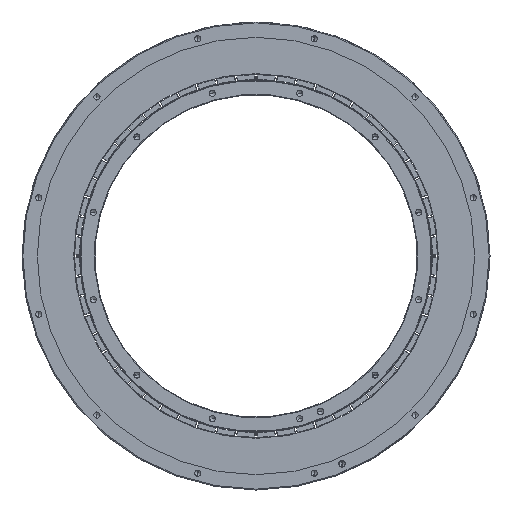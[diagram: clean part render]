
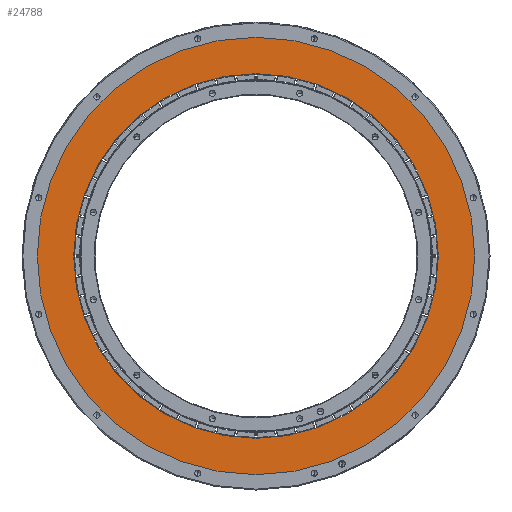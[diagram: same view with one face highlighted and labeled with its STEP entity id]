
A CAD part, front view. The second image highlights one B-rep face of the part: STEP entity #24788.
In plain terms, the highlighted planar face has unit normal (0, -1, 0).
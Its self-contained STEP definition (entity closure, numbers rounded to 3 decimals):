
#2610 = CARTESIAN_POINT ( 'NONE',  ( 0., -44., 179.93 ) ) ;
#3209 = CARTESIAN_POINT ( 'NONE',  ( 0., -44., 0. ) ) ;
#7020 = CARTESIAN_POINT ( 'NONE',  ( 0., -44., 0. ) ) ;
#7289 = DIRECTION ( 'NONE',  ( 0., -1., 0. ) ) ;
#7701 = CARTESIAN_POINT ( 'NONE',  ( 0., -44., -150. ) ) ;
#8012 = EDGE_CURVE ( 'NONE', #10495, #25065, #11505, .T. ) ;
#9382 = CIRCLE ( 'NONE', #26011, 150. ) ;
#9480 = CARTESIAN_POINT ( 'NONE',  ( 0., -44., 0. ) ) ;
#10495 = VERTEX_POINT ( 'NONE', #2610 ) ;
#11301 = CARTESIAN_POINT ( 'NONE',  ( 0., -44., -179.93 ) ) ;
#11505 = CIRCLE ( 'NONE', #13692, 179.93 ) ;
#11855 = DIRECTION ( 'NONE',  ( 0., 0., -1. ) ) ;
#12942 = VERTEX_POINT ( 'NONE', #13282 ) ;
#13035 = ORIENTED_EDGE ( 'NONE', *, *, #8012, .T. ) ;
#13268 = EDGE_CURVE ( 'NONE', #25065, #10495, #17529, .T. ) ;
#13282 = CARTESIAN_POINT ( 'NONE',  ( 0., -44., 150. ) ) ;
#13289 = DIRECTION ( 'NONE',  ( 0., -1., 0. ) ) ;
#13692 = AXIS2_PLACEMENT_3D ( 'NONE', #30352, #7289, #17546 ) ;
#14329 = CIRCLE ( 'NONE', #17567, 150. ) ;
#14558 = EDGE_LOOP ( 'NONE', ( #15127, #13035 ) ) ;
#14864 = ORIENTED_EDGE ( 'NONE', *, *, #25111, .F. ) ;
#15127 = ORIENTED_EDGE ( 'NONE', *, *, #13268, .T. ) ;
#15335 = EDGE_LOOP ( 'NONE', ( #29595, #14864 ) ) ;
#15775 = CARTESIAN_POINT ( 'NONE',  ( 0., -44., 0. ) ) ;
#16892 = AXIS2_PLACEMENT_3D ( 'NONE', #7020, #22008, #11855 ) ;
#16938 = PLANE ( 'NONE',  #16892 ) ;
#17429 = FACE_OUTER_BOUND ( 'NONE', #14558, .T. ) ;
#17529 = CIRCLE ( 'NONE', #21843, 179.93 ) ;
#17546 = DIRECTION ( 'NONE',  ( 0., 0., -1. ) ) ;
#17567 = AXIS2_PLACEMENT_3D ( 'NONE', #3209, #13289, #23119 ) ;
#20704 = VERTEX_POINT ( 'NONE', #7701 ) ;
#21843 = AXIS2_PLACEMENT_3D ( 'NONE', #15775, #31630, #26218 ) ;
#22008 = DIRECTION ( 'NONE',  ( 0., -1., 0. ) ) ;
#22175 = FACE_BOUND ( 'NONE', #15335, .T. ) ;
#23119 = DIRECTION ( 'NONE',  ( 0., 0., -1. ) ) ;
#24788 = ADVANCED_FACE ( 'NONE', ( #22175, #17429 ), #16938, .T. ) ;
#25065 = VERTEX_POINT ( 'NONE', #11301 ) ;
#25111 = EDGE_CURVE ( 'NONE', #12942, #20704, #9382, .T. ) ;
#26011 = AXIS2_PLACEMENT_3D ( 'NONE', #9480, #32410, #26831 ) ;
#26218 = DIRECTION ( 'NONE',  ( 0., 0., -1. ) ) ;
#26831 = DIRECTION ( 'NONE',  ( 0., 0., -1. ) ) ;
#27620 = EDGE_CURVE ( 'NONE', #20704, #12942, #14329, .T. ) ;
#29595 = ORIENTED_EDGE ( 'NONE', *, *, #27620, .F. ) ;
#30352 = CARTESIAN_POINT ( 'NONE',  ( 0., -44., 0. ) ) ;
#31630 = DIRECTION ( 'NONE',  ( 0., -1., 0. ) ) ;
#32410 = DIRECTION ( 'NONE',  ( 0., -1., 0. ) ) ;
